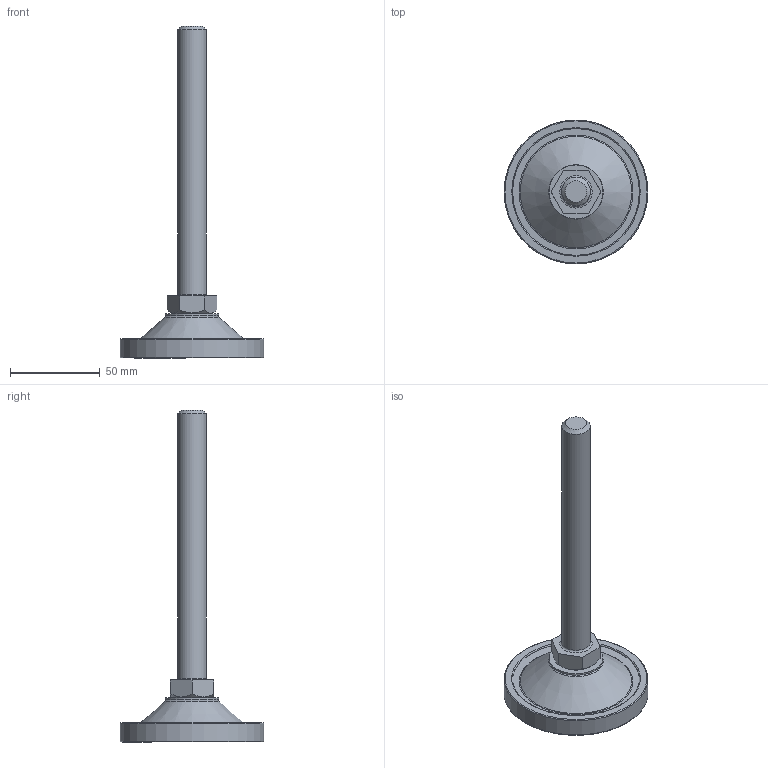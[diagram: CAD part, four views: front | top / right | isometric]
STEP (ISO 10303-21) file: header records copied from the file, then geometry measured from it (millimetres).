
FILE_DESCRIPTION(/* description */ (''),/* implementation_level */ '2;1');
FILE_NAME(/* name */ 'D:\조절자\PFR\PFR-M16-150L.stp',/* time_stamp */ '2016-03-14T15:07:38+09:00',/* author */ ('GS-DT-1-001'),/* organization */ (''),/* preprocessor_version */ 'ST-DEVELOPER v15.6',/* originating_system */ 'Autodesk Inventor LT ',/* authorisation */ '');
FILE_SCHEMA (('AUTOMOTIVE_DESIGN { 1 0 10303 214 3 1 1 }'));
Length unit declared in the file: millimetre
Products named in the file (1): PFR-M16-150L
Bounding box: 80 x 80 x 184.5 mm (x, y, z)
Volume: 81471.9 mm3; surface area: 37401.9 mm2
Topology: 5 solids, 5 shells, 76 faces, 137 edges, 83 vertices
Faces by surface type: plane 28, torus 24, cone 14, cylinder 10
Full cylindrical faces by diameter (mm): 6.912 x1, 8 x1, 8.2 x1, 8.3 x1, 16 x2, 30 x1, 74 x1, 74.4 x1, 80 x1
Entity records: 1584 total; most frequent: DIRECTION 298, CARTESIAN_POINT 251, ORIENTED_EDGE 168, AXIS2_PLACEMENT_3D 143, EDGE_LOOP 140, EDGE_CURVE 84, VERTEX_POINT 78, FACE_OUTER_BOUND 76
